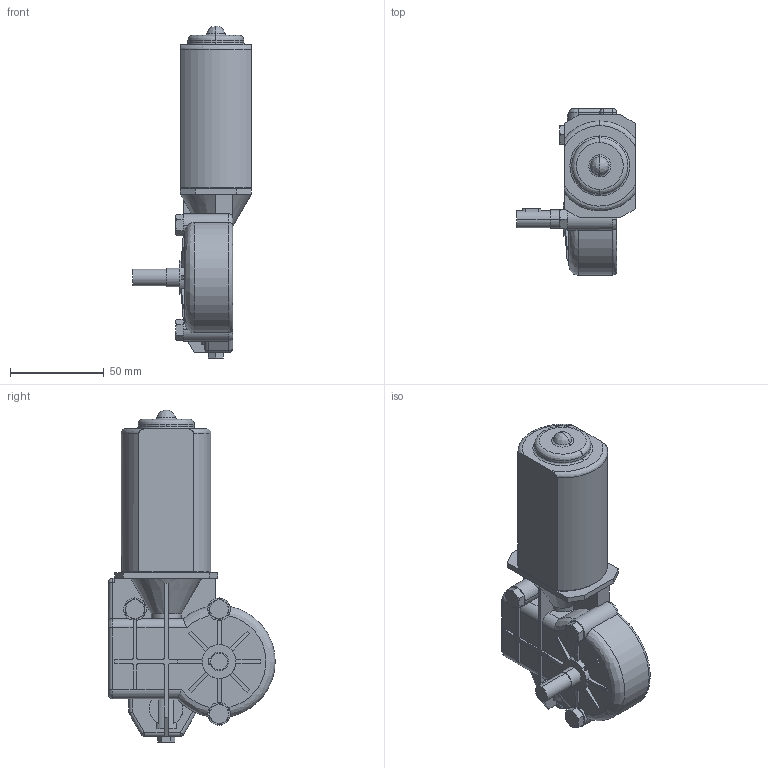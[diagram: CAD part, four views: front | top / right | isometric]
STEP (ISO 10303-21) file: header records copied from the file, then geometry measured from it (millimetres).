
FILE_DESCRIPTION (( 'STEP AP214' ), '1' );
FILE_NAME ('316.STEP', '2015-08-04T07:41:02', ( '' ), ( '' ), 'SwSTEP 2.0', 'SolidWorks 2014', '' );
FILE_SCHEMA (( 'AUTOMOTIVE_DESIGN' ));
Length unit declared in the file: millimetre
Products named in the file (1): 316
Bounding box: 63.5 x 89.03 x 177.5 mm (x, y, z)
Volume: 275059.8 mm3; surface area: 38789.2 mm2
Topology: 6 solids, 6 shells, 286 faces, 727 edges, 451 vertices
Faces by surface type: plane 140, cylinder 80, cone 36, bspline 30
Entity records: 10677 total; most frequent: CARTESIAN_POINT 3251, ORIENTED_EDGE 1424, DIRECTION 1328, EDGE_CURVE 712, AXIS2_PLACEMENT_3D 465, VERTEX_POINT 451, LINE 398, VECTOR 398
